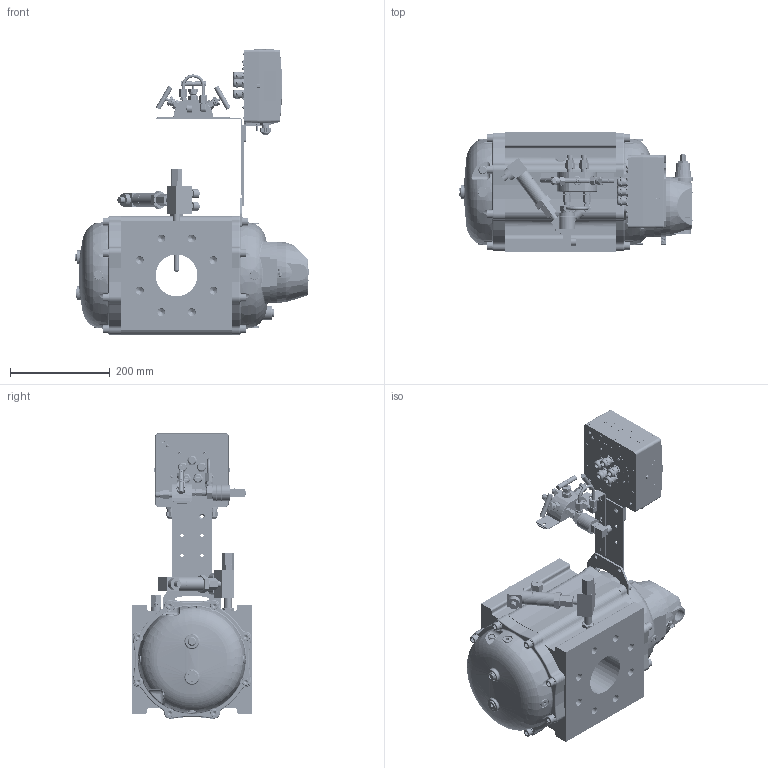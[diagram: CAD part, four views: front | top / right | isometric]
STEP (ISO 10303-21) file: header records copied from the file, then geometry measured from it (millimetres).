
FILE_DESCRIPTION(('STEP AP242'), '1');
FILE_NAME('ÝÐ-245-G160-80 áåç èñòîðèè', '', ('UNSPECIFIED'), ('UNSPECIFIED'), 'C3D Converter', 'C3D Toolkit', '');
FILE_SCHEMA(('AP242_MANAGED_MODEL_BASED_3D_ENGINEERING_MIM_LF { 1 0 10303 442 1 1 4 }'));
Length unit declared in the file: millimetre
Bounding box: 470 x 241 x 573.39 mm (x, y, z)
Volume: 17512615.2 mm3; surface area: 1401637.1 mm2
Topology: 166 solids, 168 shells, 33475 faces, 90819 edges, 59974 vertices
Faces by surface type: plane 15508, extrusion 11492, cylinder 4358, cone 802, bspline 749, torus 489, sphere 77
Full cylindrical faces by diameter (mm): 1.5 x1, 1.95 x3, 2 x12, 2.459 x22, 2.5 x4, 2.791 x2, 2.9 x4, 3 x30, 3.2 x13, 3.242 x12, 3.3 x6, 3.45 x7, 3.5 x16, 4 x22, 4.1 x8, 4.134 x1, 4.2 x12, 4.4 x1, 4.917 x3, 5 x22, 5.2 x4, 5.5 x20, 5.6 x20, 6 x15, 6.2 x2, 6.4 x6, 6.5 x8, 7 x20, 8 x22, 8.376 x16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
Entity records: 1445117 total; most frequent: CARTESIAN_POINT 403110, ORIENTED_EDGE 178396, DIRECTION 127759, EDGE_CURVE 89198, VECTOR 63333, VERTEX_POINT 59891, LINE 51841, EDGE_LOOP 37698
